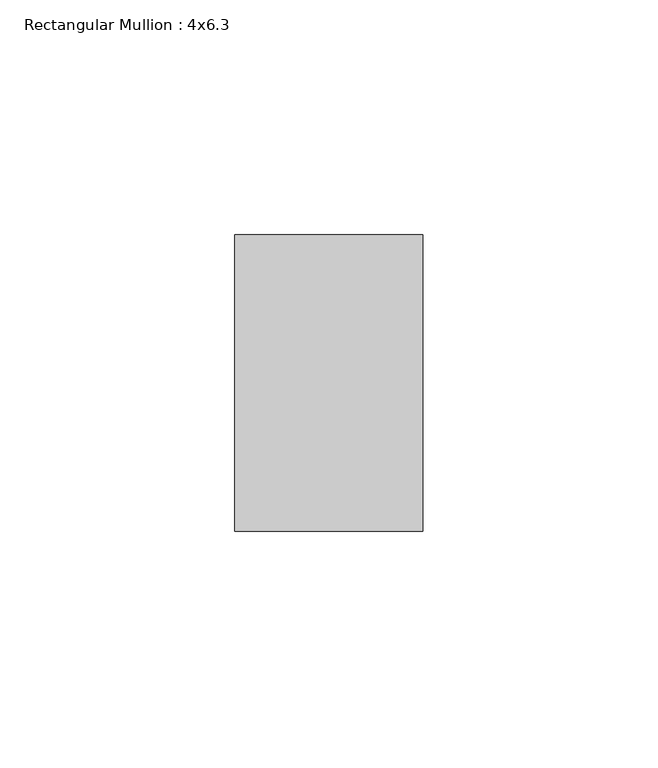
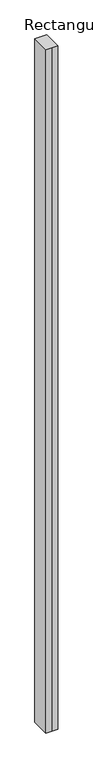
"""IFC4 building model written with IfcOpenShell, lengths in millimetres: member geometry, Rectangular Mullion : 4x6.3."""

from ifc_helpers import new_model, si_unit, frame, origin, place, context, project, spatial, polyline, outline, extrude, source, transform, mapped, element, save


def rectangular_mullion_4x6_3_d1467701(model_context):
    return source(origin(), model_context, "Body", "SweptSolid", [
        extrude(outline(polyline([(-20.0, 20.0), (-20.0, 83.0), (20.0, 83.0), (20.0, 20.0), (0.0, 20.0), (-20.0, 20.0)])), frame((0.0, 0.0, -2403.9640958), z_axis=(0.0, 0.0, 1.0), x_axis=(1.0, 0.0, 0.0)), (0.0, 0.0, 1.0), 2403.9640958),
    ])


if __name__ == "__main__":
    model = new_model("IFC4")
    model_context = context("Model", 3, world=origin())
    ifc_project = project(units=[si_unit("LENGTHUNIT", "METRE", prefix="MILLI")], contexts=[model_context])
    site = spatial("IfcSite", under=ifc_project)
    building = spatial("IfcBuilding", under=site)
    placement = place(None, origin())
    rectangular_mullion_4x6_3_shape = rectangular_mullion_4x6_3_d1467701(model_context)
    element("IfcMember", 1, ObjectType="Rectangular Mullion : 4x6.3", at=placement, inside=building, context=model_context, shape_type="MappedRepresentation", body=[
        mapped(rectangular_mullion_4x6_3_shape, transform((0.0, 0.0, 0.0), x_axis=(1.0, 0.0, 0.0), y_axis=(0.0, 1.0, 0.0), z_axis=(0.0, 0.0, 1.0))),
    ])
    save(model, "model.ifc")
